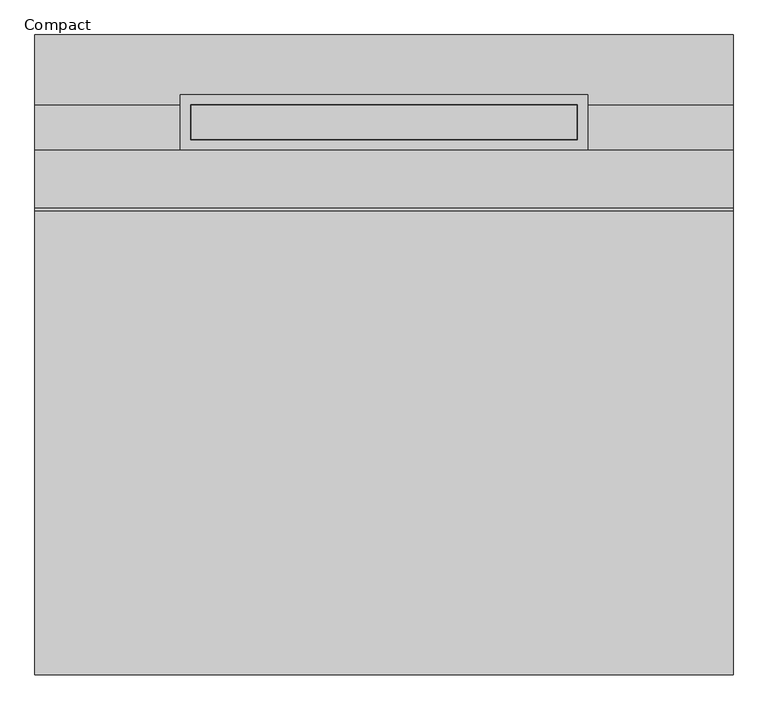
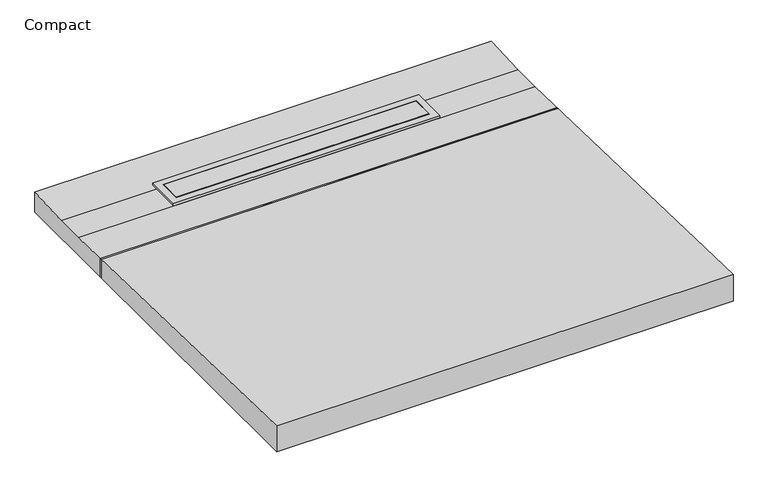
"""IFC4 building model written with IfcOpenShell, lengths in millimetres: sanitary terminal geometry, NLRS_PF_52_UN_Showerboard Compact_Easydrain : Compact."""

from ifc_helpers import new_model, si_unit, point, frame, frame_2d, origin, place, context, project, spatial, polyline, circle_curve, trimmed, segment, composite_curve, outline, extrude, source, transform, mapped, element, save


def compact_89b39318(model_context):
    return source(origin(), model_context, "Body", "SweptSolid", [
        extrude(outline(polyline([(-147.9085366, -4.3298815), (-147.9085366, -56.0), (-152.0914634, -56.0), (-152.0914634, -4.2186456), (-147.9085366, -4.3298815)])), frame((-517.5, 0.0, 0.0), z_axis=(1.0, 0.0, 0.0), x_axis=(0.0, 1.0, 0.0)), (0.0, 0.0, 1.0), 1200.0),
        extrude(outline(composite_curve([segment(trimmed(circle_curve(frame_2d((-31.0, 82.5)), 20.0), [point((-11.0, 82.5))], [point((-51.0, 82.5))], False, "CARTESIAN"), True, "CONTINUOUS"), segment(trimmed(circle_curve(frame_2d((-31.0, 82.5)), 20.0), [point((-51.0, 82.5))], [point((-11.0, 82.5))], False, "CARTESIAN"), True, "CONTINUOUS")], self_intersect=False)), frame((0.0, -87.0, 0.0), z_axis=(0.0, 1.0, 0.0), x_axis=(0.0, 0.0, 1.0)), (0.0, 0.0, 1.0), 87.0),
        extrude(outline(polyline([(150.0, -56.0), (-950.0, -56.0), (-950.0, 17.0), (-47.5, -7.0), (30.0, -7.0), (150.0, 0.0), (150.0, -56.0)])), frame((-517.5, 0.0, 0.0), z_axis=(1.0, 0.0, 0.0), x_axis=(0.0, 1.0, 0.0)), (0.0, 0.0, 1.0), 1200.0),
        extrude(outline(polyline([(414.0, 29.0), (414.0, -29.0), (-249.0, -29.0), (-249.0, 29.0), (414.0, 29.0)])), frame((0.0, 0.0, -7.0), z_axis=(0.0, 0.0, 1.0), x_axis=(1.0, 0.0, 0.0)), (0.0, 0.0, 1.0), 7.0),
        extrude(outline(polyline([(432.5, 47.5), (432.5, -47.5), (-267.5, -47.5), (-267.5, 47.5), (432.5, 47.5)]), holes=[polyline([(415.0, 30.0), (-250.0, 30.0), (-250.0, -30.0), (415.0, -30.0), (415.0, 30.0)])]), frame((0.0, 0.0, -7.0), z_axis=(0.0, 0.0, 1.0), x_axis=(1.0, 0.0, 0.0)), (0.0, 0.0, 1.0), 7.0),
        extrude(outline(polyline([(-19.0204082, -267.5), (-20.0, -27.5), (-56.0, -27.5), (-56.0, 192.5), (-20.0, 192.5), (-19.0204082, 432.5), (-7.0, 432.5), (-7.0, -267.5), (-19.0204082, -267.5)])), frame((0.0, -30.0, 0.0), z_axis=(0.0, 1.0, 0.0), x_axis=(0.0, 0.0, 1.0)), (0.0, 0.0, 1.0), 60.0),
    ])


if __name__ == "__main__":
    model = new_model("IFC4")
    model_context = context("Model", 3, world=origin())
    ifc_project = project(units=[si_unit("LENGTHUNIT", "METRE", prefix="MILLI")], contexts=[model_context])
    site = spatial("IfcSite", under=ifc_project)
    building = spatial("IfcBuilding", under=site)
    placement = place(None, origin())
    compact_shape = compact_89b39318(model_context)
    element("IfcSanitaryTerminal", 1, ObjectType="NLRS_PF_52_UN_Showerboard Compact_Easydrain : Compact", at=placement, inside=building, context=model_context, shape_type="MappedRepresentation", body=[
        mapped(compact_shape, transform((0.0, 0.0, 0.0), x_axis=(1.0, 0.0, 0.0), y_axis=(0.0, 1.0, 0.0), z_axis=(0.0, 0.0, 1.0))),
    ])
    save(model, "model.ifc")
